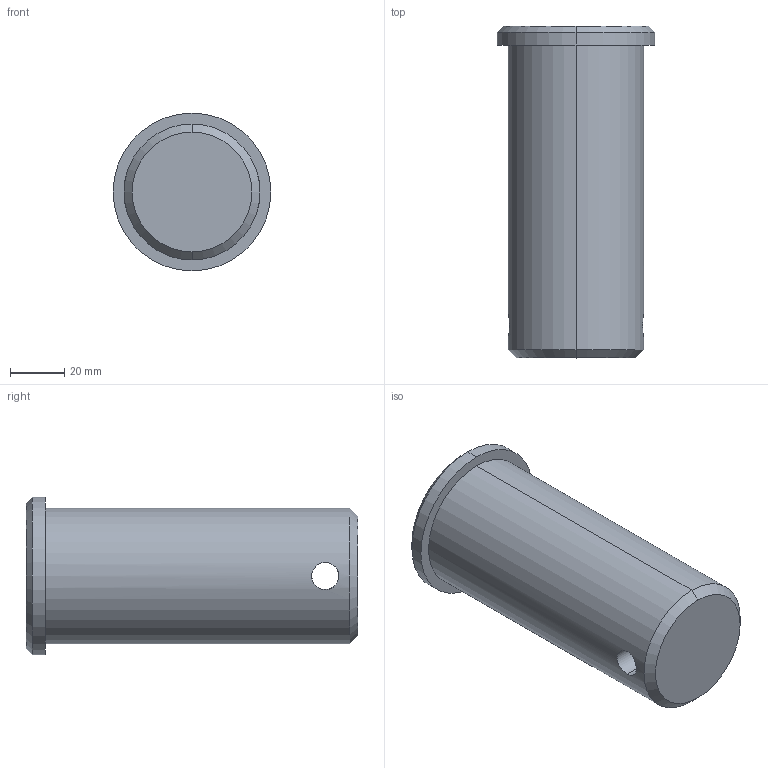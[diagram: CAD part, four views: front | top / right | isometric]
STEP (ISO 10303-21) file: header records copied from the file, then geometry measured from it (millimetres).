
FILE_DESCRIPTION (( 'STEP AP203' ), '1' );
FILE_NAME ('65660.W0150.step', '2023-10-06T10:01:02', ( '' ), ( '' ), 'SwSTEP 2.0', 'SolidWorks 2019', '' );
FILE_SCHEMA (( 'CONFIG_CONTROL_DESIGN' ));
Length unit declared in the file: millimetre
Products named in the file (1): 65660.W0150
Bounding box: 58 x 122 x 58 mm (x, y, z)
Volume: 239227.9 mm3; surface area: 25477 mm2
Topology: 1 solids, 1 shells, 13 faces, 26 edges, 16 vertices
Faces by surface type: cylinder 6, cone 4, plane 3
Entity records: 557 total; most frequent: CARTESIAN_POINT 200, DIRECTION 62, ORIENTED_EDGE 52, EDGE_CURVE 26, AXIS2_PLACEMENT_3D 26, EDGE_LOOP 16, VERTEX_POINT 16, ADVANCED_FACE 13
